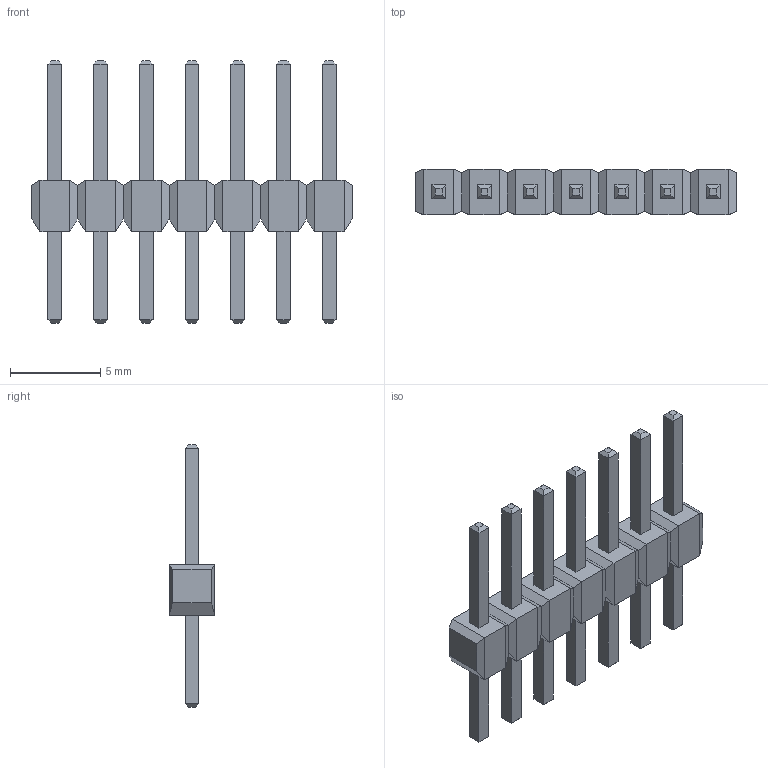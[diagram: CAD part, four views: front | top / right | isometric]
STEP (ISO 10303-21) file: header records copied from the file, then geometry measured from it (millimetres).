
FILE_DESCRIPTION(('STEP AP214'),'1');
FILE_NAME('CON7_1X7_P100UM_HDR_TYC','2021-11-21T13:01:45',(''),(''),'','','');
FILE_SCHEMA(('AUTOMOTIVE_DESIGN'));
Length unit declared in the file: millimetre
Products named in the file (1): product
Bounding box: 17.78 x 2.54 x 14.58 mm (x, y, z)
Volume: 165.7 mm3; surface area: 470.6 mm2
Topology: 15 solids, 15 shells, 226 faces, 452 edges, 256 vertices
Faces by surface type: plane 226
Entity records: 5345 total; most frequent: DIRECTION 906, ORIENTED_EDGE 904, CARTESIAN_POINT 483, EDGE_CURVE 452, LINE 452, VECTOR 452, VERTEX_POINT 256, AXIS2_PLACEMENT_3D 227
